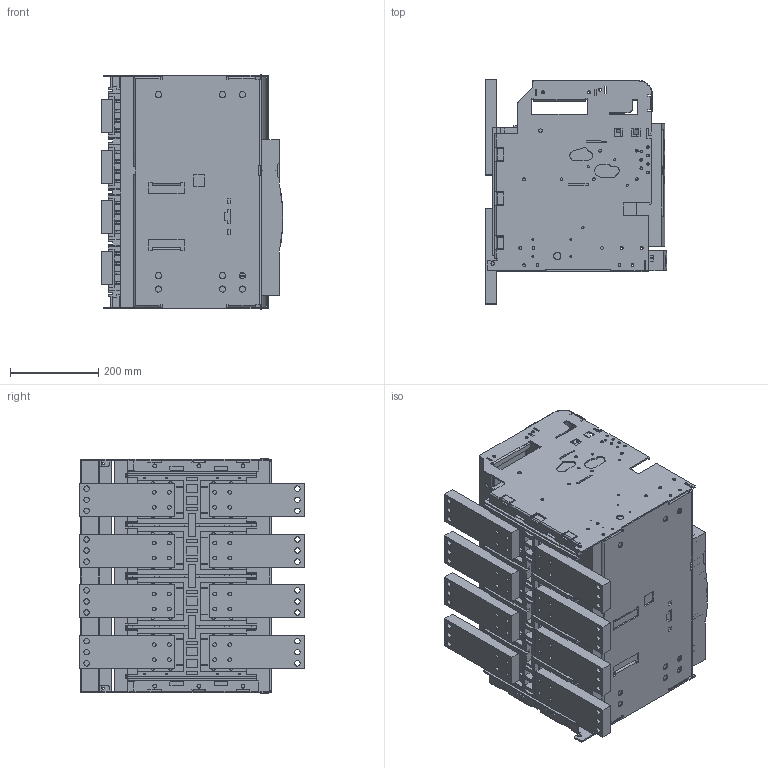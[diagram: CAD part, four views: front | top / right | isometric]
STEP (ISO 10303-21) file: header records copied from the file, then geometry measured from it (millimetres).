
FILE_DESCRIPTION (( 'STEP AP214' ), '1' );
FILE_NAME ('OptiMat A-S4-BH-2500-4P-D-X.STEP', '2023-08-01T05:36:58', ( '' ), ( '' ), 'SwSTEP 2.0', 'SolidWorks 2018', '' );
FILE_SCHEMA (( 'AUTOMOTIVE_DESIGN' ));
Length unit declared in the file: millimetre
Products named in the file (1): OptiMat A-S4-BH-2500-4P-D-X
Bounding box: 410.8 x 507 x 530 mm (x, y, z)
Volume: 60602438.2 mm3; surface area: 3170342.1 mm2
Topology: 16 solids, 30 shells, 4850 faces, 13467 edges, 8746 vertices
Faces by surface type: plane 3118, cylinder 1444, torus 137, cone 107, bspline 36, sphere 8
Entity records: 215538 total; most frequent: CARTESIAN_POINT 36627, ORIENTED_EDGE 26898, DIRECTION 25664, EDGE_CURVE 13449, VECTOR 9866, LINE 9866, VERTEX_POINT 8746, AXIS2_PLACEMENT_3D 7899
